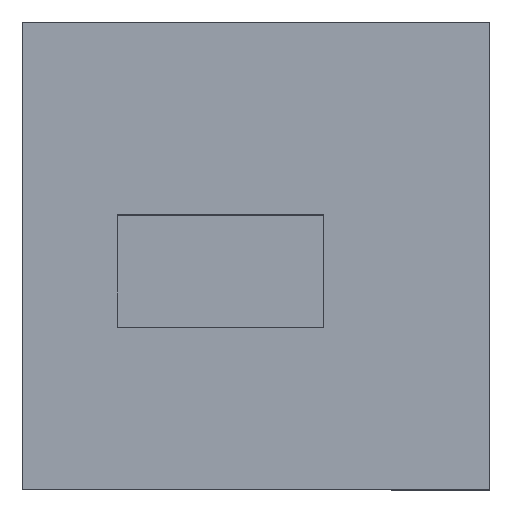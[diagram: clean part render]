
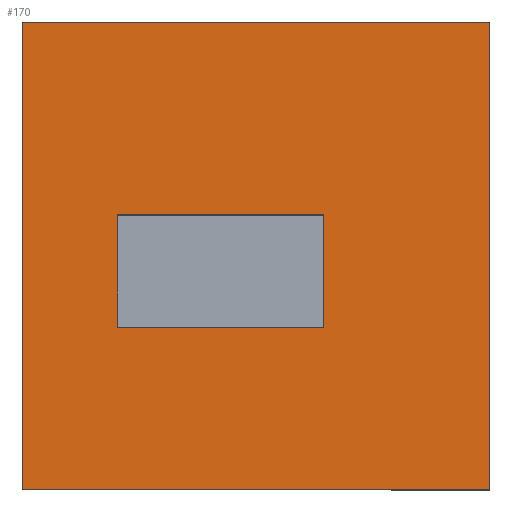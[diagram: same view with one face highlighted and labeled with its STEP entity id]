
A CAD part, top view. The second image highlights one B-rep face of the part: STEP entity #170.
In plain terms, the highlighted planar face has unit normal (0, 0, 1).
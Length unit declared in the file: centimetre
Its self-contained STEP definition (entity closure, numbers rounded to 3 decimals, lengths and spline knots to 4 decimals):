
#12 = VECTOR ( 'NONE', #522, 100. ) ;
#25 = LINE ( 'NONE', #27, #508 ) ;
#27 = CARTESIAN_POINT ( 'NONE',  ( 0., 0., 1000. ) ) ;
#36 = LINE ( 'NONE', #247, #365 ) ;
#40 = DIRECTION ( 'NONE',  ( 0., 0., 1. ) ) ;
#56 = ORIENTED_EDGE ( 'NONE', *, *, #536, .T. ) ;
#83 = CARTESIAN_POINT ( 'NONE',  ( 0., 0., 1000. ) ) ;
#86 = VECTOR ( 'NONE', #450, 100. ) ;
#87 = LINE ( 'NONE', #606, #86 ) ;
#89 = ORIENTED_EDGE ( 'NONE', *, *, #98, .F. ) ;
#94 = EDGE_CURVE ( 'NONE', #520, #119, #598, .T. ) ;
#98 = EDGE_CURVE ( 'NONE', #309, #559, #448, .T. ) ;
#100 = VECTOR ( 'NONE', #510, 100. ) ;
#114 = LINE ( 'NONE', #378, #12 ) ;
#116 = EDGE_CURVE ( 'NONE', #324, #309, #133, .T. ) ;
#119 = VERTEX_POINT ( 'NONE', #353 ) ;
#127 = CARTESIAN_POINT ( 'NONE',  ( 1000., 1000., 1000. ) ) ;
#128 = FACE_OUTER_BOUND ( 'NONE', #419, .T. ) ;
#129 = VECTOR ( 'NONE', #232, 100. ) ;
#133 = LINE ( 'NONE', #300, #100 ) ;
#159 = EDGE_CURVE ( 'NONE', #469, #520, #36, .T. ) ;
#163 = ORIENTED_EDGE ( 'NONE', *, *, #94, .T. ) ;
#170 = ADVANCED_FACE ( 'NONE', ( #497, #128 ), #301, .T. ) ;
#182 = CARTESIAN_POINT ( 'NONE',  ( 644.7581, 347.0049, 1000. ) ) ;
#185 = DIRECTION ( 'NONE',  ( 1., 0., 0. ) ) ;
#187 = CARTESIAN_POINT ( 'NONE',  ( 203.9389, 347.0049, 1000. ) ) ;
#200 = CARTESIAN_POINT ( 'NONE',  ( 1000., 0., 1000. ) ) ;
#221 = EDGE_CURVE ( 'NONE', #278, #324, #87, .T. ) ;
#232 = DIRECTION ( 'NONE',  ( 0., -1., 0. ) ) ;
#236 = DIRECTION ( 'NONE',  ( 1., 0., 0. ) ) ;
#241 = VECTOR ( 'NONE', #185, 100. ) ;
#246 = DIRECTION ( 'NONE',  ( 1., 0., 0. ) ) ;
#247 = CARTESIAN_POINT ( 'NONE',  ( 0., 1000., 1000. ) ) ;
#250 = AXIS2_PLACEMENT_3D ( 'NONE', #83, #40, #246 ) ;
#278 = VERTEX_POINT ( 'NONE', #456 ) ;
#295 = CARTESIAN_POINT ( 'NONE',  ( 203.9389, 347.0049, 1000. ) ) ;
#300 = CARTESIAN_POINT ( 'NONE',  ( 203.9389, 347.0049, 1000. ) ) ;
#301 = PLANE ( 'NONE',  #250 ) ;
#309 = VERTEX_POINT ( 'NONE', #187 ) ;
#324 = VERTEX_POINT ( 'NONE', #635 ) ;
#330 = EDGE_CURVE ( 'NONE', #682, #469, #114, .T. ) ;
#333 = CARTESIAN_POINT ( 'NONE',  ( 0., 1000., 1000. ) ) ;
#353 = CARTESIAN_POINT ( 'NONE',  ( 0., 0., 1000. ) ) ;
#360 = ORIENTED_EDGE ( 'NONE', *, *, #116, .F. ) ;
#362 = CARTESIAN_POINT ( 'NONE',  ( 644.7581, 347.0049, 1000. ) ) ;
#365 = VECTOR ( 'NONE', #462, 100. ) ;
#378 = CARTESIAN_POINT ( 'NONE',  ( 1000., 1000., 1000. ) ) ;
#384 = ORIENTED_EDGE ( 'NONE', *, *, #221, .F. ) ;
#396 = VECTOR ( 'NONE', #599, 100. ) ;
#411 = ORIENTED_EDGE ( 'NONE', *, *, #330, .T. ) ;
#419 = EDGE_LOOP ( 'NONE', ( #163, #56, #411, #455 ) ) ;
#448 = LINE ( 'NONE', #295, #241 ) ;
#450 = DIRECTION ( 'NONE',  ( -1., 0., 0. ) ) ;
#455 = ORIENTED_EDGE ( 'NONE', *, *, #159, .T. ) ;
#456 = CARTESIAN_POINT ( 'NONE',  ( 644.7581, 588.5299, 1000. ) ) ;
#462 = DIRECTION ( 'NONE',  ( -1., 0., 0. ) ) ;
#469 = VERTEX_POINT ( 'NONE', #127 ) ;
#474 = ORIENTED_EDGE ( 'NONE', *, *, #542, .F. ) ;
#497 = FACE_BOUND ( 'NONE', #594, .T. ) ;
#508 = VECTOR ( 'NONE', #236, 100. ) ;
#510 = DIRECTION ( 'NONE',  ( 0., -1., 0. ) ) ;
#520 = VERTEX_POINT ( 'NONE', #333 ) ;
#522 = DIRECTION ( 'NONE',  ( 0., 1., 0. ) ) ;
#536 = EDGE_CURVE ( 'NONE', #119, #682, #25, .T. ) ;
#542 = EDGE_CURVE ( 'NONE', #559, #278, #654, .T. ) ;
#559 = VERTEX_POINT ( 'NONE', #362 ) ;
#594 = EDGE_LOOP ( 'NONE', ( #360, #384, #474, #89 ) ) ;
#598 = LINE ( 'NONE', #653, #129 ) ;
#599 = DIRECTION ( 'NONE',  ( 0., 1., 0. ) ) ;
#606 = CARTESIAN_POINT ( 'NONE',  ( 203.9389, 588.5299, 1000. ) ) ;
#635 = CARTESIAN_POINT ( 'NONE',  ( 203.9389, 588.5299, 1000. ) ) ;
#653 = CARTESIAN_POINT ( 'NONE',  ( 0., 1000., 1000. ) ) ;
#654 = LINE ( 'NONE', #182, #396 ) ;
#682 = VERTEX_POINT ( 'NONE', #200 ) ;
